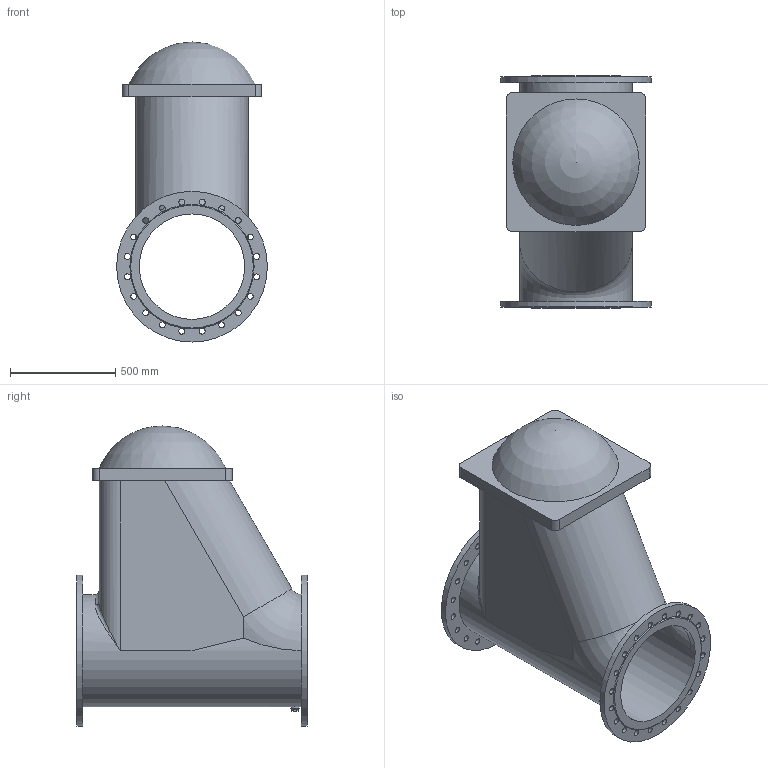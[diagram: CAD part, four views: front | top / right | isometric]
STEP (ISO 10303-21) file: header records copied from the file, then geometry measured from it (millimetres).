
FILE_DESCRIPTION(('STEP AP203'), '1');
FILE_NAME('Êëàïàí îáðàòíûé øàðîâîé ôëàíöåâûé 012F.Z DN500 PN10', '', ('UNSPECIFIED'), ('UNSPECIFIED'), 'ASCON STEP Converter 1.6', 'ASCON Math Kernel', '');
FILE_SCHEMA(('CONFIG_CONTROL_DESIGN'));
Length unit declared in the file: millimetre
Bounding box: 715 x 1100 x 1423.5 mm (x, y, z)
Volume: 254804493.4 mm3; surface area: 7190646.9 mm2
Topology: 1 solids, 1 shells, 95 faces, 249 edges, 162 vertices
Faces by surface type: cylinder 55, plane 32, torus 3, bspline 2, cone 2, sphere 1
Full cylindrical faces by diameter (mm): 28 x40, 32 x1, 40 x1, 500 x1, 532 x1, 715 x2
Entity records: 4178 total; most frequent: CARTESIAN_POINT 1041, DIRECTION 475, ORIENTED_EDGE 392, EDGE_LOOP 235, AXIS2_PLACEMENT_3D 209, EDGE_CURVE 196, VERTEX_POINT 161, FACE_BOUND 139
